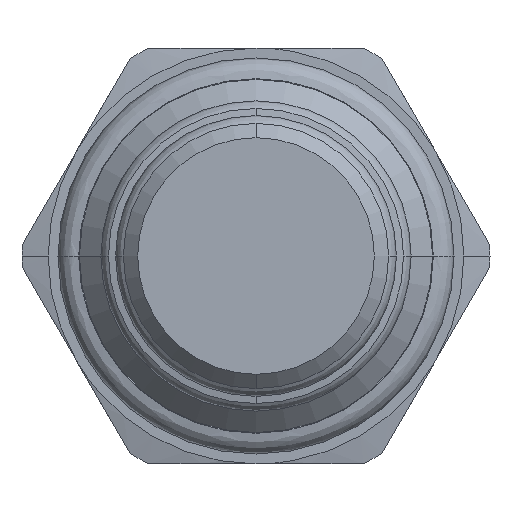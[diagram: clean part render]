
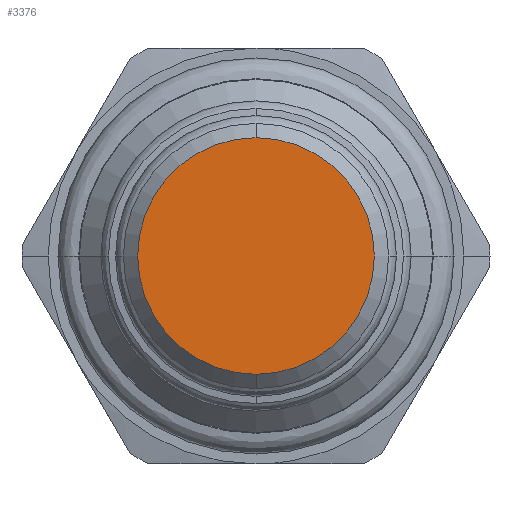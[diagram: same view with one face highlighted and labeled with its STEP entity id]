
A CAD part, front view. The second image highlights one B-rep face of the part: STEP entity #3376.
In plain terms, the highlighted planar face has unit normal (0, -1, 0).
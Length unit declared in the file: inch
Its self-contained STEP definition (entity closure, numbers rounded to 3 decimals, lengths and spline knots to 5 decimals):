
#217=CARTESIAN_POINT('',(0.,-1.60199,0.));
#218=DIRECTION('',(0.,-1.,0.));
#219=DIRECTION('',(0.,0.,-1.));
#220=AXIS2_PLACEMENT_3D('',#217,#218,#219);
#235=CARTESIAN_POINT('',(0.,-1.60199,0.));
#236=DIRECTION('',(0.,-1.,0.));
#237=DIRECTION('',(0.,0.,1.));
#238=AXIS2_PLACEMENT_3D('',#235,#236,#237);
#2859=CARTESIAN_POINT('',(0.,-1.60199,0.249));
#2860=CARTESIAN_POINT('',(0.,-1.60199,-0.249));
#2861=VERTEX_POINT('',#2859);
#2862=VERTEX_POINT('',#2860);
#3366=CARTESIAN_POINT('',(0.,-1.60199,0.));
#3367=DIRECTION('',(0.,1.,0.));
#3368=DIRECTION('',(0.,0.,1.));
#3369=AXIS2_PLACEMENT_3D('',#3366,#3367,#3368);
#3370=PLANE('',#3369);
#3371=ORIENTED_EDGE('',*,*,#3356,.F.);
#3373=ORIENTED_EDGE('',*,*,#3372,.F.);
#3374=EDGE_LOOP('',(#3371,#3373));
#3375=FACE_OUTER_BOUND('',#3374,.F.);
#3376=ADVANCED_FACE('',(#3375),#3370,.F.);
#221=CIRCLE('',#220,0.249);
#239=CIRCLE('',#238,0.249);
#3356=EDGE_CURVE('',#2862,#2861,#221,.T.);
#3372=EDGE_CURVE('',#2861,#2862,#239,.T.);
